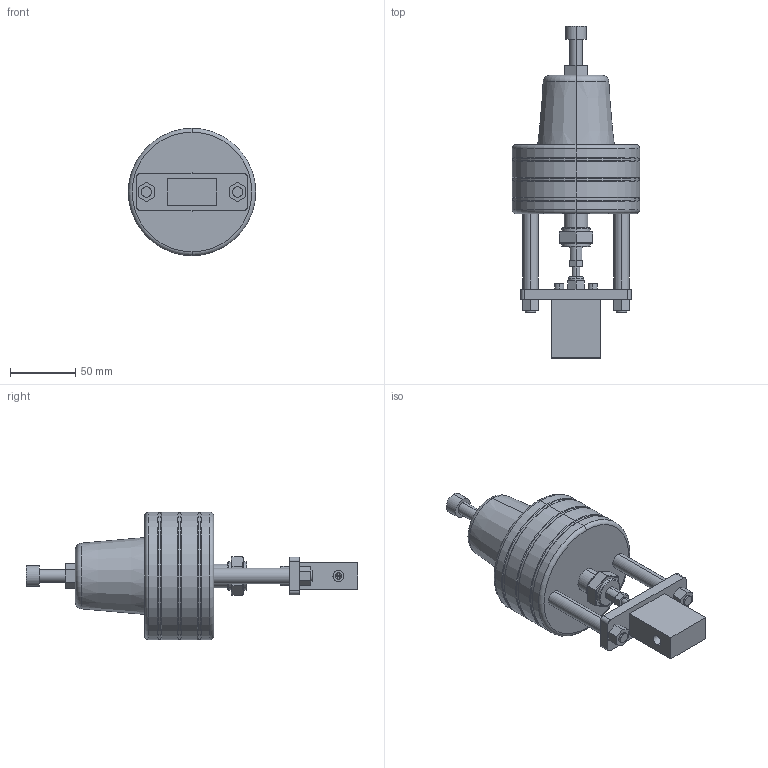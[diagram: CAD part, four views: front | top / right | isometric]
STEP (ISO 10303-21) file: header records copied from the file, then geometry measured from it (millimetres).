
FILE_DESCRIPTION (( 'STEP AP203' ), '1' );
FILE_NAME ('AOV15CS02-S-00-00.STEP', '2022-04-27T05:06:36', ( '' ), ( '' ), 'SwSTEP 2.0', 'SolidWorks 2020', '' );
FILE_SCHEMA (( 'CONFIG_CONTROL_DESIGN' ));
Length unit declared in the file: millimetre
Products named in the file (1): AOV15CS02-S-00-00
Bounding box: 98 x 255.3 x 98 mm (x, y, z)
Volume: 594950.5 mm3; surface area: 64473.7 mm2
Topology: 1 solids, 1 shells, 191 faces, 422 edges, 262 vertices
Faces by surface type: plane 83, cylinder 76, cone 18, torus 14
Entity records: 5329 total; most frequent: DIRECTION 966, CARTESIAN_POINT 912, ORIENTED_EDGE 844, EDGE_CURVE 422, AXIS2_PLACEMENT_3D 364, VERTEX_POINT 262, LINE 238, VECTOR 238
